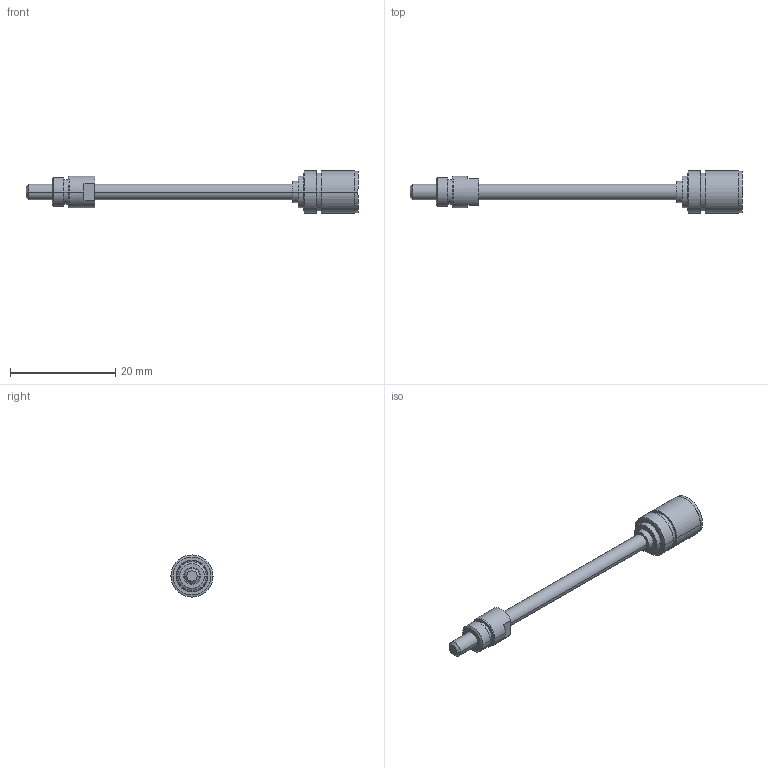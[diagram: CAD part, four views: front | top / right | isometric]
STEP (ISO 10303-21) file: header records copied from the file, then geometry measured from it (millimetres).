
FILE_DESCRIPTION((''),'2;1');
FILE_NAME('473643_GP8S-1ST','2016-10-05T',('mmagpetk'),(''),'CREO PARAMETRIC BY PTC INC, 2016050','CREO PARAMETRIC BY PTC INC, 2016050','');
FILE_SCHEMA(('CONFIG_CONTROL_DESIGN'));
Length unit declared in the file: millimetre
Products named in the file (1): 473643_GP8S-1ST
Bounding box: 63 x 8 x 8 mm (x, y, z)
Volume: 831.9 mm3; surface area: 1134.6 mm2
Topology: 1 solids, 1 shells, 61 faces, 124 edges, 76 vertices
Faces by surface type: cylinder 26, plane 17, cone 16, torus 2
Entity records: 2725 total; most frequent: DIRECTION 320, CARTESIAN_POINT 261, ORIENTED_EDGE 248, PRESENTATION_STYLE_ASSIGNMENT 177, AXIS2_PLACEMENT_3D 135, STYLED_ITEM 125, CURVE_STYLE 124, EDGE_CURVE 124
